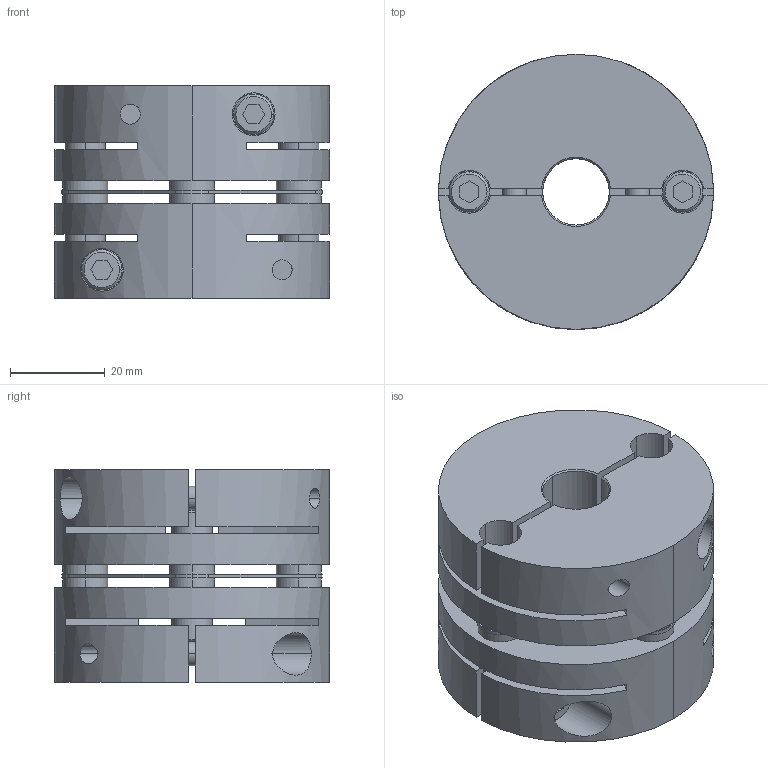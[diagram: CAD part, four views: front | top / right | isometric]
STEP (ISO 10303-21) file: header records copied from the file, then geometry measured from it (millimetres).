
FILE_DESCRIPTION((''),'2;1');
FILE_NAME('LAS-58C-14×25.stp','2015-10-15T14:47:42',(''),(''),'AutoCAD STEP 2000i','AutoCAD 2000i',', , ');
FILE_SCHEMA(('CONFIG_CONTROL_DESIGN'));
Length unit declared in the file: millimetre
Products named in the file (6): LAS-58C-12×19; 忣兜1; LA-5802-D19; LA-5802-D12-1; LA-5802-D12; LAS58-ITA
Assembly tree (5 placements, depth 2):
  LAS-58C-12×19
    忣兜1
    LA-5802-D19
    LA-5802-D12-1
    LA-5802-D12
    LAS58-ITA
Bounding box: 58 x 58 x 44.8 mm (x, y, z)
Volume: 83802.3 mm3; surface area: 32847.6 mm2
Topology: 1 solids, 1 shells, 238 faces, 618 edges, 404 vertices
Faces by surface type: plane 114, cylinder 96, cone 28
Entity records: 8213 total; most frequent: CARTESIAN_POINT 1988, DIRECTION 1316, ORIENTED_EDGE 1240, EDGE_CURVE 620, AXIS2_PLACEMENT_3D 484, VERTEX_POINT 404, VECTOR 348, LINE 348
